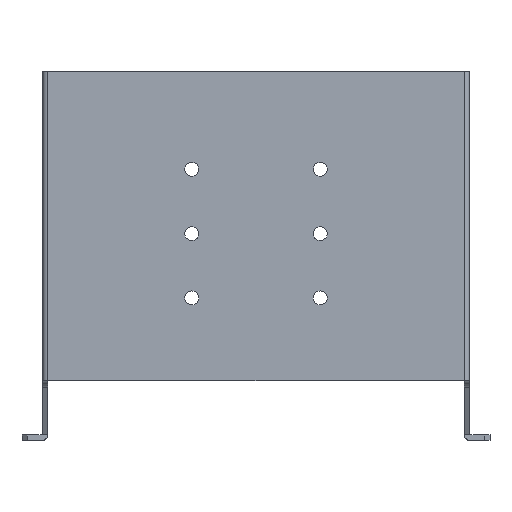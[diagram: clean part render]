
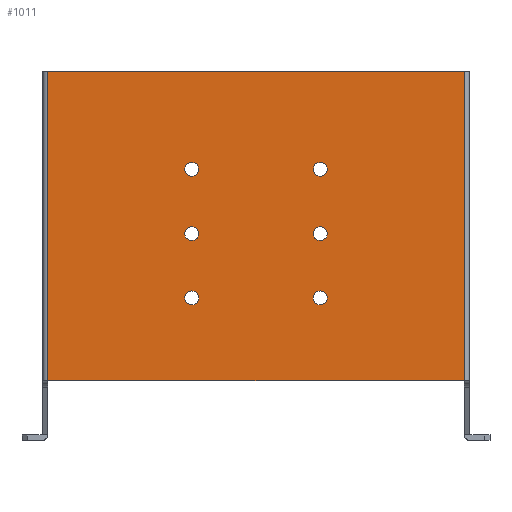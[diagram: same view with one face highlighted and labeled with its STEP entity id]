
A CAD part, top view. The second image highlights one B-rep face of the part: STEP entity #1011.
In plain terms, the highlighted planar face has unit normal (0, 0, 1).
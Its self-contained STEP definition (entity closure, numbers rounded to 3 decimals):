
#25 = AXIS2_PLACEMENT_3D ( 'NONE', #518, #824, #983 ) ;
#28 = CIRCLE ( 'NONE', #1494, 2.7 ) ;
#32 = VERTEX_POINT ( 'NONE', #1201 ) ;
#56 = CARTESIAN_POINT ( 'NONE',  ( 108., 112.3, 100. ) ) ;
#65 = CIRCLE ( 'NONE', #666, 2.7 ) ;
#90 = ORIENTED_EDGE ( 'NONE', *, *, #140, .F. ) ;
#98 = EDGE_CURVE ( 'NONE', #2067, #259, #1220, .T. ) ;
#125 = CARTESIAN_POINT ( 'NONE',  ( 110.7, 62.3, 100. ) ) ;
#140 = EDGE_CURVE ( 'NONE', #620, #1723, #1661, .T. ) ;
#143 = EDGE_CURVE ( 'NONE', #1236, #1267, #570, .T. ) ;
#145 = VERTEX_POINT ( 'NONE', #125 ) ;
#147 = FACE_OUTER_BOUND ( 'NONE', #1487, .T. ) ;
#154 = CARTESIAN_POINT ( 'NONE',  ( 105.3, 62.3, 100. ) ) ;
#155 = DIRECTION ( 'NONE',  ( 0., 0., 1. ) ) ;
#193 = ORIENTED_EDGE ( 'NONE', *, *, #766, .T. ) ;
#195 = EDGE_CURVE ( 'NONE', #1434, #587, #28, .T. ) ;
#242 = AXIS2_PLACEMENT_3D ( 'NONE', #909, #447, #2092 ) ;
#255 = ORIENTED_EDGE ( 'NONE', *, *, #195, .F. ) ;
#257 = LINE ( 'NONE', #1245, #2012 ) ;
#259 = VERTEX_POINT ( 'NONE', #2062 ) ;
#302 = ORIENTED_EDGE ( 'NONE', *, *, #661, .F. ) ;
#315 = DIRECTION ( 'NONE',  ( 1., 0., 0. ) ) ;
#320 = EDGE_CURVE ( 'NONE', #32, #1513, #804, .T. ) ;
#323 = DIRECTION ( 'NONE',  ( 0., 0., 1. ) ) ;
#370 = AXIS2_PLACEMENT_3D ( 'NONE', #1801, #1942, #477 ) ;
#374 = ORIENTED_EDGE ( 'NONE', *, *, #1715, .T. ) ;
#405 = CIRCLE ( 'NONE', #370, 2.7 ) ;
#406 = AXIS2_PLACEMENT_3D ( 'NONE', #1909, #1731, #315 ) ;
#431 = AXIS2_PLACEMENT_3D ( 'NONE', #56, #2023, #1048 ) ;
#434 = AXIS2_PLACEMENT_3D ( 'NONE', #1071, #1413, #720 ) ;
#442 = EDGE_CURVE ( 'NONE', #145, #2032, #1893, .T. ) ;
#447 = DIRECTION ( 'NONE',  ( 0., 0., 1. ) ) ;
#448 = DIRECTION ( 'NONE',  ( 0., 0., 1. ) ) ;
#457 = CARTESIAN_POINT ( 'NONE',  ( 58., 62.3, 100. ) ) ;
#477 = DIRECTION ( 'NONE',  ( 1., 0., 0. ) ) ;
#511 = LINE ( 'NONE', #1998, #745 ) ;
#518 = CARTESIAN_POINT ( 'NONE',  ( 0., 0., 100. ) ) ;
#552 = DIRECTION ( 'NONE',  ( 1., 0., 0. ) ) ;
#555 = ORIENTED_EDGE ( 'NONE', *, *, #143, .F. ) ;
#570 = CIRCLE ( 'NONE', #1224, 2.7 ) ;
#583 = DIRECTION ( 'NONE',  ( 0., -1., 0. ) ) ;
#587 = VERTEX_POINT ( 'NONE', #1176 ) ;
#605 = FACE_BOUND ( 'NONE', #1647, .T. ) ;
#614 = FACE_BOUND ( 'NONE', #1471, .T. ) ;
#620 = VERTEX_POINT ( 'NONE', #1310 ) ;
#644 = PLANE ( 'NONE',  #25 ) ;
#661 = EDGE_CURVE ( 'NONE', #2032, #145, #65, .T. ) ;
#665 = DIRECTION ( 'NONE',  ( 1., 0., 0. ) ) ;
#666 = AXIS2_PLACEMENT_3D ( 'NONE', #1008, #864, #1519 ) ;
#675 = CARTESIAN_POINT ( 'NONE',  ( 55.3, 112.3, 100. ) ) ;
#683 = ORIENTED_EDGE ( 'NONE', *, *, #946, .F. ) ;
#699 = EDGE_LOOP ( 'NONE', ( #1167, #918 ) ) ;
#720 = DIRECTION ( 'NONE',  ( 1., 0., 0. ) ) ;
#745 = VECTOR ( 'NONE', #1472, 1000. ) ;
#747 = EDGE_CURVE ( 'NONE', #587, #1434, #2005, .T. ) ;
#761 = EDGE_LOOP ( 'NONE', ( #90, #683 ) ) ;
#765 = CARTESIAN_POINT ( 'NONE',  ( 55.3, 87.3, 100. ) ) ;
#766 = EDGE_CURVE ( 'NONE', #259, #1949, #1676, .T. ) ;
#772 = CIRCLE ( 'NONE', #1491, 2.7 ) ;
#774 = ORIENTED_EDGE ( 'NONE', *, *, #442, .F. ) ;
#804 = CIRCLE ( 'NONE', #434, 2.7 ) ;
#824 = DIRECTION ( 'NONE',  ( 0., 0., -1. ) ) ;
#864 = DIRECTION ( 'NONE',  ( 0., 0., 1. ) ) ;
#909 = CARTESIAN_POINT ( 'NONE',  ( 108., 87.3, 100. ) ) ;
#918 = ORIENTED_EDGE ( 'NONE', *, *, #2055, .F. ) ;
#927 = CARTESIAN_POINT ( 'NONE',  ( 164., 150.3, 100. ) ) ;
#941 = CARTESIAN_POINT ( 'NONE',  ( 2., 150.3, 100. ) ) ;
#946 = EDGE_CURVE ( 'NONE', #1723, #620, #1455, .T. ) ;
#952 = DIRECTION ( 'NONE',  ( 1., 0., 0. ) ) ;
#958 = ORIENTED_EDGE ( 'NONE', *, *, #747, .F. ) ;
#962 = CARTESIAN_POINT ( 'NONE',  ( 58., 87.3, 100. ) ) ;
#964 = DIRECTION ( 'NONE',  ( 1., 0., 0. ) ) ;
#974 = DIRECTION ( 'NONE',  ( 1., 0., 0. ) ) ;
#977 = AXIS2_PLACEMENT_3D ( 'NONE', #1133, #1302, #974 ) ;
#983 = DIRECTION ( 'NONE',  ( -1., 0., 0. ) ) ;
#1008 = CARTESIAN_POINT ( 'NONE',  ( 108., 62.3, 100. ) ) ;
#1011 = ADVANCED_FACE ( 'NONE', ( #1246, #605, #1260, #1908, #614, #1269, #147 ), #644, .F. ) ;
#1044 = CIRCLE ( 'NONE', #1106, 2.7 ) ;
#1048 = DIRECTION ( 'NONE',  ( 1., 0., 0. ) ) ;
#1051 = EDGE_CURVE ( 'NONE', #1165, #1385, #772, .T. ) ;
#1071 = CARTESIAN_POINT ( 'NONE',  ( 58., 87.3, 100. ) ) ;
#1072 = ORIENTED_EDGE ( 'NONE', *, *, #320, .F. ) ;
#1076 = CARTESIAN_POINT ( 'NONE',  ( 164., 30., 100. ) ) ;
#1106 = AXIS2_PLACEMENT_3D ( 'NONE', #2070, #323, #952 ) ;
#1111 = DIRECTION ( 'NONE',  ( 1., 0., 0. ) ) ;
#1112 = EDGE_CURVE ( 'NONE', #1267, #1236, #405, .T. ) ;
#1133 = CARTESIAN_POINT ( 'NONE',  ( 108., 62.3, 100. ) ) ;
#1165 = VERTEX_POINT ( 'NONE', #1608 ) ;
#1167 = ORIENTED_EDGE ( 'NONE', *, *, #1051, .F. ) ;
#1169 = VERTEX_POINT ( 'NONE', #927 ) ;
#1176 = CARTESIAN_POINT ( 'NONE',  ( 110.7, 112.3, 100. ) ) ;
#1201 = CARTESIAN_POINT ( 'NONE',  ( 60.7, 87.3, 100. ) ) ;
#1211 = CARTESIAN_POINT ( 'NONE',  ( 2., 0., 100. ) ) ;
#1220 = LINE ( 'NONE', #1211, #1628 ) ;
#1224 = AXIS2_PLACEMENT_3D ( 'NONE', #457, #448, #964 ) ;
#1236 = VERTEX_POINT ( 'NONE', #1964 ) ;
#1245 = CARTESIAN_POINT ( 'NONE',  ( 0., 150.3, 100. ) ) ;
#1246 = FACE_BOUND ( 'NONE', #699, .T. ) ;
#1249 = VECTOR ( 'NONE', #552, 1000. ) ;
#1251 = ORIENTED_EDGE ( 'NONE', *, *, #98, .T. ) ;
#1260 = FACE_BOUND ( 'NONE', #1323, .T. ) ;
#1267 = VERTEX_POINT ( 'NONE', #1541 ) ;
#1269 = FACE_BOUND ( 'NONE', #761, .T. ) ;
#1289 = DIRECTION ( 'NONE',  ( 0., 0., 1. ) ) ;
#1302 = DIRECTION ( 'NONE',  ( 0., 0., 1. ) ) ;
#1310 = CARTESIAN_POINT ( 'NONE',  ( 110.7, 87.3, 100. ) ) ;
#1323 = EDGE_LOOP ( 'NONE', ( #774, #302 ) ) ;
#1352 = ORIENTED_EDGE ( 'NONE', *, *, #1888, .T. ) ;
#1365 = ORIENTED_EDGE ( 'NONE', *, *, #2080, .F. ) ;
#1385 = VERTEX_POINT ( 'NONE', #675 ) ;
#1413 = DIRECTION ( 'NONE',  ( 0., 0., 1. ) ) ;
#1434 = VERTEX_POINT ( 'NONE', #1671 ) ;
#1455 = CIRCLE ( 'NONE', #242, 2.7 ) ;
#1471 = EDGE_LOOP ( 'NONE', ( #1072, #1365 ) ) ;
#1472 = DIRECTION ( 'NONE',  ( 0., 1., 0. ) ) ;
#1487 = EDGE_LOOP ( 'NONE', ( #193, #374, #1352, #1251 ) ) ;
#1491 = AXIS2_PLACEMENT_3D ( 'NONE', #1613, #155, #665 ) ;
#1494 = AXIS2_PLACEMENT_3D ( 'NONE', #1593, #1614, #1111 ) ;
#1513 = VERTEX_POINT ( 'NONE', #765 ) ;
#1519 = DIRECTION ( 'NONE',  ( 1., 0., 0. ) ) ;
#1541 = CARTESIAN_POINT ( 'NONE',  ( 60.7, 62.3, 100. ) ) ;
#1575 = DIRECTION ( 'NONE',  ( -1., 0., 0. ) ) ;
#1593 = CARTESIAN_POINT ( 'NONE',  ( 108., 112.3, 100. ) ) ;
#1608 = CARTESIAN_POINT ( 'NONE',  ( 60.7, 112.3, 100. ) ) ;
#1613 = CARTESIAN_POINT ( 'NONE',  ( 58., 112.3, 100. ) ) ;
#1614 = DIRECTION ( 'NONE',  ( 0., 0., 1. ) ) ;
#1628 = VECTOR ( 'NONE', #583, 1000. ) ;
#1647 = EDGE_LOOP ( 'NONE', ( #958, #255 ) ) ;
#1661 = CIRCLE ( 'NONE', #406, 2.7 ) ;
#1671 = CARTESIAN_POINT ( 'NONE',  ( 105.3, 112.3, 100. ) ) ;
#1676 = LINE ( 'NONE', #2011, #1249 ) ;
#1677 = ORIENTED_EDGE ( 'NONE', *, *, #1112, .F. ) ;
#1715 = EDGE_CURVE ( 'NONE', #1949, #1169, #511, .T. ) ;
#1723 = VERTEX_POINT ( 'NONE', #1849 ) ;
#1731 = DIRECTION ( 'NONE',  ( 0., 0., 1. ) ) ;
#1801 = CARTESIAN_POINT ( 'NONE',  ( 58., 62.3, 100. ) ) ;
#1849 = CARTESIAN_POINT ( 'NONE',  ( 105.3, 87.3, 100. ) ) ;
#1888 = EDGE_CURVE ( 'NONE', #1169, #2067, #257, .T. ) ;
#1893 = CIRCLE ( 'NONE', #977, 2.7 ) ;
#1908 = FACE_BOUND ( 'NONE', #1990, .T. ) ;
#1909 = CARTESIAN_POINT ( 'NONE',  ( 108., 87.3, 100. ) ) ;
#1941 = DIRECTION ( 'NONE',  ( 1., 0., 0. ) ) ;
#1942 = DIRECTION ( 'NONE',  ( 0., 0., 1. ) ) ;
#1949 = VERTEX_POINT ( 'NONE', #1076 ) ;
#1964 = CARTESIAN_POINT ( 'NONE',  ( 55.3, 62.3, 100. ) ) ;
#1990 = EDGE_LOOP ( 'NONE', ( #1677, #555 ) ) ;
#1992 = CIRCLE ( 'NONE', #2096, 2.7 ) ;
#1998 = CARTESIAN_POINT ( 'NONE',  ( 164., 0., 100. ) ) ;
#2005 = CIRCLE ( 'NONE', #431, 2.7 ) ;
#2011 = CARTESIAN_POINT ( 'NONE',  ( 0., 30., 100. ) ) ;
#2012 = VECTOR ( 'NONE', #1575, 1000. ) ;
#2023 = DIRECTION ( 'NONE',  ( 0., 0., 1. ) ) ;
#2032 = VERTEX_POINT ( 'NONE', #154 ) ;
#2055 = EDGE_CURVE ( 'NONE', #1385, #1165, #1044, .T. ) ;
#2062 = CARTESIAN_POINT ( 'NONE',  ( 2., 30., 100. ) ) ;
#2067 = VERTEX_POINT ( 'NONE', #941 ) ;
#2070 = CARTESIAN_POINT ( 'NONE',  ( 58., 112.3, 100. ) ) ;
#2080 = EDGE_CURVE ( 'NONE', #1513, #32, #1992, .T. ) ;
#2092 = DIRECTION ( 'NONE',  ( 1., 0., 0. ) ) ;
#2096 = AXIS2_PLACEMENT_3D ( 'NONE', #962, #1289, #1941 ) ;
